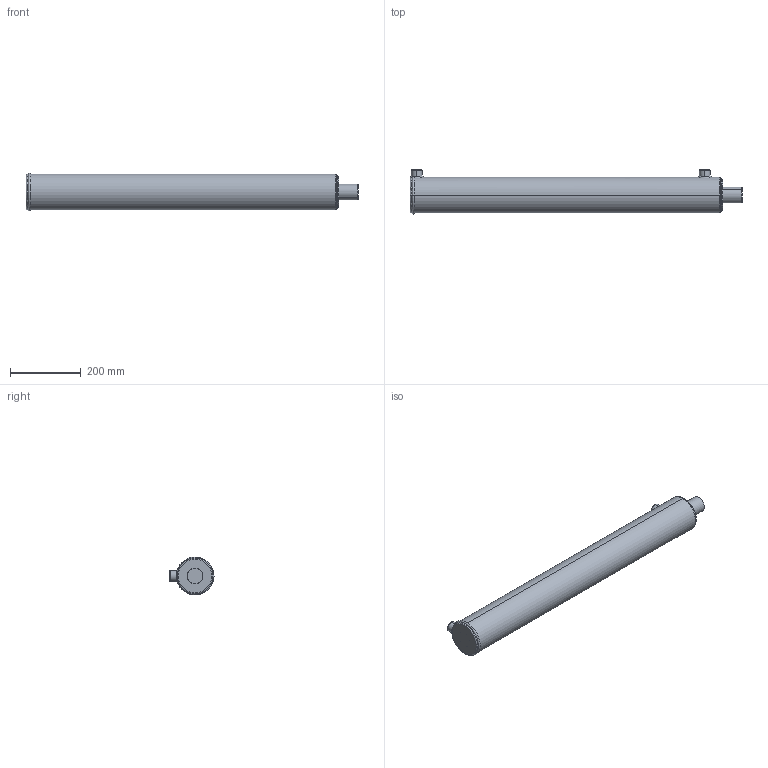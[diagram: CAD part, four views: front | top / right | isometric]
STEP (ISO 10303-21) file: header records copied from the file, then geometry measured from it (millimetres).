
FILE_DESCRIPTION (( 'STEP AP203' ), '1' );
FILE_NAME ('BL350175x762 (30).STEP', '2014-11-24T03:39:43', ( '' ), ( '' ), 'SwSTEP 2.0', 'SolidWorks 2014', '' );
FILE_SCHEMA (( 'CONFIG_CONTROL_DESIGN' ));
Length unit declared in the file: millimetre
Products named in the file (3): BL body 3.5_3.5x30; Spare_3.5x30; BL350175x762 (30)
Assembly tree (2 placements, depth 2):
  BL350175x762 (30)
    BL body 3.5_3.5x30
    Spare_3.5x30
Bounding box: 937 x 124.4 x 107.2 mm (x, y, z)
Volume: 8171810.4 mm3; surface area: 473979.6 mm2
Topology: 2 solids, 2 shells, 88 faces, 205 edges, 126 vertices
Faces by surface type: cylinder 32, plane 20, torus 17, bspline 11, cone 8
Entity records: 6022 total; most frequent: CARTESIAN_POINT 3775, DIRECTION 420, ORIENTED_EDGE 402, EDGE_CURVE 201, AXIS2_PLACEMENT_3D 181, VERTEX_POINT 126, EDGE_LOOP 101, CIRCLE 99
